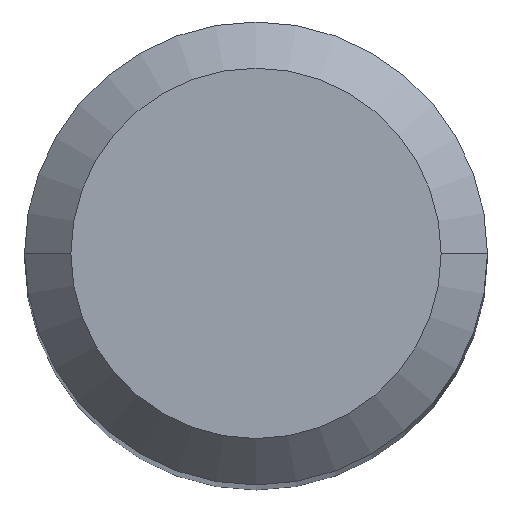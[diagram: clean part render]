
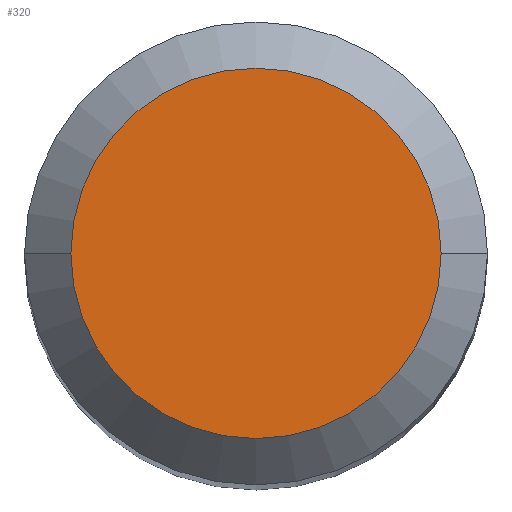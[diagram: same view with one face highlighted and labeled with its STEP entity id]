
A CAD part, top view. The second image highlights one B-rep face of the part: STEP entity #320.
In plain terms, the highlighted planar face has unit normal (0, 0, 1).
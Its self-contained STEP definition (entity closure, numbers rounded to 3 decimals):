
#74 = PLANE ( 'NONE',  #326 ) ;
#82 = DIRECTION ( 'NONE',  ( 1., 0., 0. ) ) ;
#92 = DIRECTION ( 'NONE',  ( -1., 0., 0. ) ) ;
#100 = ORIENTED_EDGE ( 'NONE', *, *, #206, .F. ) ;
#101 = ORIENTED_EDGE ( 'NONE', *, *, #403, .F. ) ;
#206 = EDGE_CURVE ( 'NONE', #595, #463, #366, .T. ) ;
#210 = DIRECTION ( 'NONE',  ( -1., 0., 0. ) ) ;
#245 = AXIS2_PLACEMENT_3D ( 'NONE', #512, #372, #92 ) ;
#253 = EDGE_LOOP ( 'NONE', ( #100, #101 ) ) ;
#320 = ADVANCED_FACE ( 'NONE', ( #596 ), #74, .T. ) ;
#326 = AXIS2_PLACEMENT_3D ( 'NONE', #458, #332, #82 ) ;
#332 = DIRECTION ( 'NONE',  ( 0., 0., 1. ) ) ;
#359 = CARTESIAN_POINT ( 'NONE',  ( 0., 0., 0. ) ) ;
#366 = CIRCLE ( 'NONE', #496, 2.4 ) ;
#372 = DIRECTION ( 'NONE',  ( 0., 0., -1. ) ) ;
#378 = CARTESIAN_POINT ( 'NONE',  ( 2.4, 0., 0. ) ) ;
#403 = EDGE_CURVE ( 'NONE', #463, #595, #452, .T. ) ;
#452 = CIRCLE ( 'NONE', #245, 2.4 ) ;
#458 = CARTESIAN_POINT ( 'NONE',  ( 0., 2.4, 0. ) ) ;
#463 = VERTEX_POINT ( 'NONE', #378 ) ;
#496 = AXIS2_PLACEMENT_3D ( 'NONE', #359, #499, #210 ) ;
#499 = DIRECTION ( 'NONE',  ( 0., 0., -1. ) ) ;
#512 = CARTESIAN_POINT ( 'NONE',  ( 0., 0., 0. ) ) ;
#587 = CARTESIAN_POINT ( 'NONE',  ( -2.4, 0., 0. ) ) ;
#595 = VERTEX_POINT ( 'NONE', #587 ) ;
#596 = FACE_OUTER_BOUND ( 'NONE', #253, .T. ) ;
